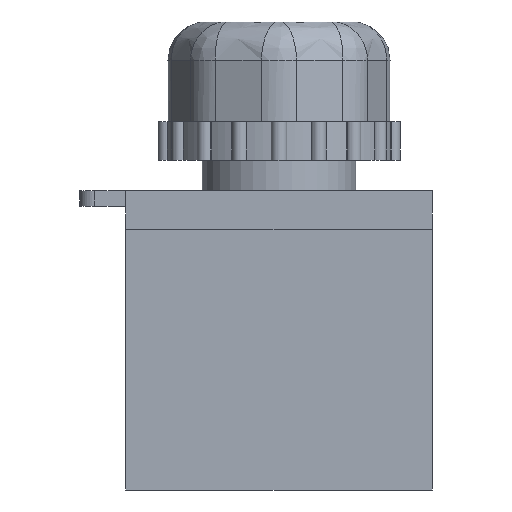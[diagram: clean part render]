
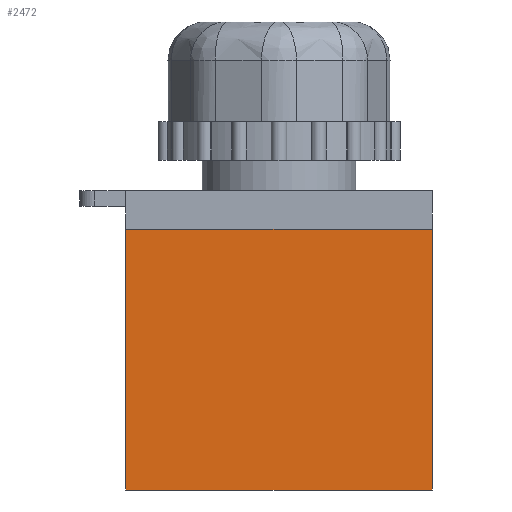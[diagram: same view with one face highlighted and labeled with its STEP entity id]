
A CAD part, front view. The second image highlights one B-rep face of the part: STEP entity #2472.
In plain terms, the highlighted planar face has unit normal (0, -1, 0).
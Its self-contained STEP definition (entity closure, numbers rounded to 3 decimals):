
#241=FACE_OUTER_BOUND('',#390,.T.);
#390=EDGE_LOOP('',(#1652,#1653,#1654,#1655));
#545=LINE('',#3640,#783);
#547=LINE('',#3644,#785);
#550=LINE('',#3649,#788);
#551=LINE('',#3651,#789);
#783=VECTOR('',#2891,10.);
#785=VECTOR('',#2895,10.);
#788=VECTOR('',#2900,10.);
#789=VECTOR('',#2903,10.);
#1020=VERTEX_POINT('',#3637);
#1021=VERTEX_POINT('',#3639);
#1022=VERTEX_POINT('',#3643);
#1023=VERTEX_POINT('',#3647);
#1267=EDGE_CURVE('',#1021,#1020,#545,.T.);
#1269=EDGE_CURVE('',#1021,#1022,#547,.T.);
#1272=EDGE_CURVE('',#1020,#1023,#550,.T.);
#1273=EDGE_CURVE('',#1022,#1023,#551,.T.);
#1652=ORIENTED_EDGE('',*,*,#1267,.T.);
#1653=ORIENTED_EDGE('',*,*,#1272,.T.);
#1654=ORIENTED_EDGE('',*,*,#1273,.F.);
#1655=ORIENTED_EDGE('',*,*,#1269,.F.);
#2388=PLANE('',#2631);
#2472=ADVANCED_FACE('',(#241),#2388,.T.);
#2631=AXIS2_PLACEMENT_3D('',#3650,#2901,#2902);
#2891=DIRECTION('',(1.,0.,0.));
#2895=DIRECTION('',(0.,0.,1.));
#2900=DIRECTION('',(0.,0.,1.));
#2901=DIRECTION('center_axis',(0.,-1.,0.));
#2902=DIRECTION('ref_axis',(1.,0.,0.));
#2903=DIRECTION('',(1.,0.,0.));
#3637=CARTESIAN_POINT('',(20.,-15.5,0.));
#3639=CARTESIAN_POINT('',(-20.,-15.5,0.));
#3640=CARTESIAN_POINT('',(-20.,-15.5,0.));
#3643=CARTESIAN_POINT('',(-20.,-15.5,34.));
#3644=CARTESIAN_POINT('',(-20.,-15.5,0.));
#3647=CARTESIAN_POINT('',(20.,-15.5,34.));
#3649=CARTESIAN_POINT('',(20.,-15.5,0.));
#3650=CARTESIAN_POINT('Origin',(-20.,-15.5,0.));
#3651=CARTESIAN_POINT('',(-20.,-15.5,34.));
